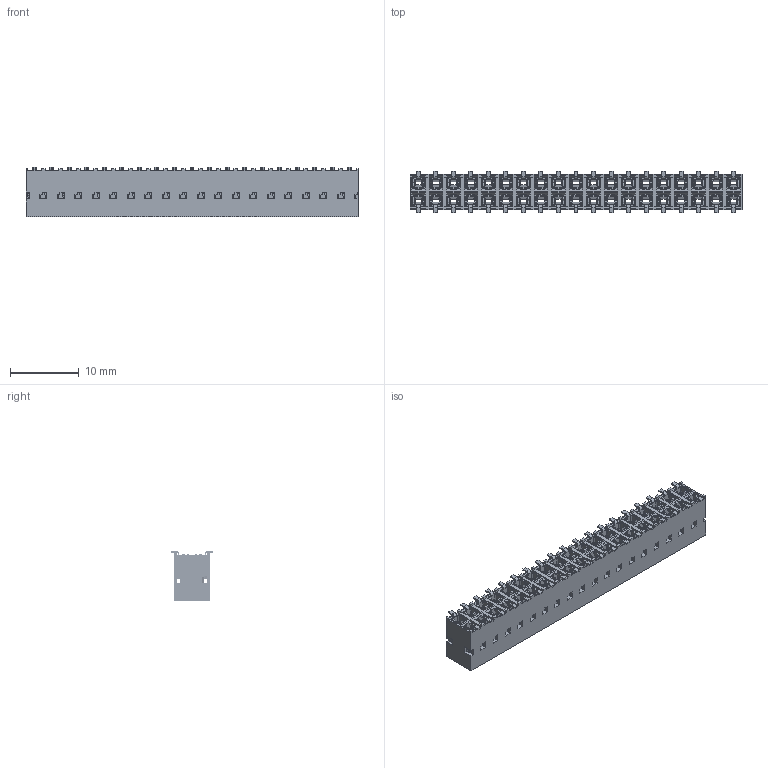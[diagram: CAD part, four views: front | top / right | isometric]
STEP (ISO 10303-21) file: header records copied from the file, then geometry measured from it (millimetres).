
FILE_DESCRIPTION((''),'2;1');
FILE_NAME('89898-319_ASM','2006-10-20T',('DaLegrand'),('FCI - CDC Division'),'PRO/ENGINEER BY PARAMETRIC TECHNOLOGY CORPORATION, 2004490','PRO/ENGINEER BY PARAMETRIC TECHNOLOGY CORPORATION, 2004490','');
FILE_SCHEMA(('CONFIG_CONTROL_DESIGN'));
Length unit declared in the file: millimetre
Products named in the file (5): 65236-019; CONTACT_DX_SIMPLE; ANGLE; 89896_ASM; 89898-319_ASM
Assembly tree (41 placements, depth 3):
  89898-319_ASM
    65236-019
    89896_ASM  x38
      CONTACT_DX_SIMPLE
      ANGLE
Bounding box: 48.18 x 6.03 x 7.2 mm (x, y, z)
Volume: 1014.3 mm3; surface area: 5458.9 mm2
Topology: 77 solids, 77 shells, 12052 faces, 28766 edges, 16448 vertices
Faces by surface type: plane 9012, cylinder 1938, bspline 950, revolution 152
Entity records: 72815 total; most frequent: CARTESIAN_POINT 14281, ORIENTED_EDGE 12680, DIRECTION 10924, EDGE_CURVE 6340, VECTOR 5986, LINE 5986, VERTEX_POINT 3868, EDGE_LOOP 2470
